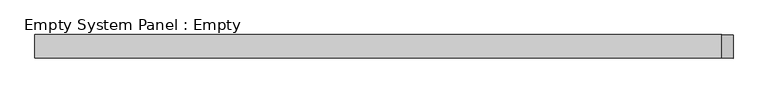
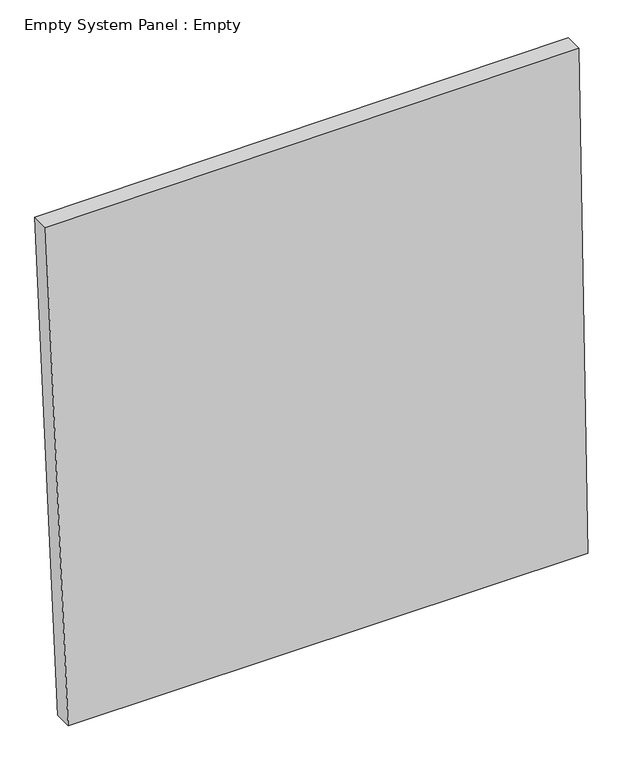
"""IFC4 building model written with IfcOpenShell, lengths in millimetres: plate geometry, Empty System Panel : Empty."""

import ifcopenshell
import ifcopenshell.guid

model = None  # the IFC model being written
_history = None  # IfcOwnerHistory: only IFC2X3 demands one
_inside = {}  # id of a spatial element -> (the spatial element, [elements in it])
_under = {}  # id of a project, library or spatial element -> (it, [spatial elements below it])
_declared = {}  # id of a project -> (the project, [libraries it declares])
_typed = {}  # id of a type object -> (the type object, [elements of that type])
_made_of = {}  # id of a material, layer set ... -> (it, [elements and type objects made of it])


def new_model(schema):
    """Start an empty IFC model of exactly this schema.

    Asked for "IFC4X3", IfcOpenShell would pick the latest addendum, in which some entities
    have other attributes; the version numbers below select the first issue.
    IFC2X3 requires an IfcOwnerHistory on every rooted entity: one is made here for all.
    """
    global model, _history
    if schema == "IFC4X3":
        model = ifcopenshell.file(schema_version=(4, 3, 0, 0))
    else:
        model = ifcopenshell.file(schema=schema)
    _inside.clear()
    _under.clear()
    _declared.clear()
    _typed.clear()
    _made_of.clear()
    _history = None
    if model.schema == "IFC2X3":
        org = make("IfcOrganization", Name="unknown")
        user = make(
            "IfcPersonAndOrganization",
            ThePerson=make("IfcPerson", FamilyName="unknown"),
            TheOrganization=org,
        )
        app = make(
            "IfcApplication",
            ApplicationDeveloper=org,
            Version="unknown",
            ApplicationFullName="unknown",
            ApplicationIdentifier="unknown",
        )
        _history = make(
            "IfcOwnerHistory",
            OwningUser=user,
            OwningApplication=app,
            ChangeAction="ADDED",
            CreationDate=0,
        )
    return model


def make(cls, **values):
    """One entity of the class cls with the attributes given. An attribute that is None is left unset."""
    return model.create_entity(
        cls, **{name: value for name, value in values.items() if value is not None}
    )


def rooted(cls, **values):
    """An entity with a GlobalId (a new one), such as an element, a storey or a relation."""
    return make(cls, GlobalId=ifcopenshell.guid.new(), OwnerHistory=_history, **values)


def si_unit(unit_type, name, prefix=None):
    """IfcSIUnit, for example si_unit("LENGTHUNIT", "METRE", prefix="MILLI")."""
    return make("IfcSIUnit", UnitType=unit_type, Prefix=prefix, Name=name)


def assignment(units):
    """IfcUnitAssignment: the units of a project."""
    return None if units is None else make("IfcUnitAssignment", Units=units)


def point(xyz):
    """IfcCartesianPoint."""
    return None if xyz is None else make("IfcCartesianPoint", Coordinates=xyz)


def direction(xyz):
    """IfcDirection."""
    return None if xyz is None else make("IfcDirection", DirectionRatios=xyz)


def frame(location, z_axis=None, x_axis=None):
    """IfcAxis2Placement3D, a coordinate frame: its origin and axes. An axis left out is left unset."""
    return make(
        "IfcAxis2Placement3D",
        Location=point(location),
        Axis=direction(z_axis),
        RefDirection=direction(x_axis),
    )


def origin():
    """The frame at (0, 0, 0) with its axes left unset."""
    return frame((0.0, 0.0, 0.0))


def place(relative_to, where):
    """IfcLocalPlacement: puts the frame where relative to a parent placement (None: the world)."""
    return make(
        "IfcLocalPlacement", PlacementRelTo=relative_to, RelativePlacement=where
    )


def context(
    kind, dimensions, precision=None, world=None, true_north=None, identifier=None
):
    """IfcGeometricRepresentationContext, for example the 3D "Model" context."""
    return make(
        "IfcGeometricRepresentationContext",
        ContextIdentifier=identifier,
        ContextType=kind,
        CoordinateSpaceDimension=dimensions,
        Precision=precision,
        WorldCoordinateSystem=world,
        TrueNorth=true_north,
    )


def project(units=None, contexts=None):
    """IfcProject with its units and contexts."""
    return rooted(
        "IfcProject",
        Name="project",
        RepresentationContexts=contexts,
        UnitsInContext=assignment(units),
    )


def spatial(cls, under=None, at=None, **own):
    """A site, building, storey or space (cls), placed at a placement, below another one or the project."""
    s = rooted(cls, ObjectPlacement=at, **own)
    if under is not None:
        _under.setdefault(under.id(), (under, []))[1].append(s)
    return s


def polyline(points):
    """IfcPolyline through the points."""
    return make("IfcPolyline", Points=[point(p) for p in points])


def outline(outer, holes=None, kind="AREA"):
    """IfcArbitraryClosedProfileDef: a profile drawn as a closed curve; with holes, ...WithVoids."""
    if holes is None:
        return make("IfcArbitraryClosedProfileDef", ProfileType=kind, OuterCurve=outer)
    return make(
        "IfcArbitraryProfileDefWithVoids",
        ProfileType=kind,
        OuterCurve=outer,
        InnerCurves=holes,
    )


def extrude(swept, where, along, depth):
    """IfcExtrudedAreaSolid: the profile swept, set in the frame where, extruded along a direction by depth."""
    return make(
        "IfcExtrudedAreaSolid",
        SweptArea=swept,
        Position=where,
        ExtrudedDirection=direction(along),
        Depth=depth,
    )


def shape(context_of_items, identifier, shape_type, items):
    """IfcShapeRepresentation: the items that make up one representation, for example the "Body"."""
    return make(
        "IfcShapeRepresentation",
        ContextOfItems=context_of_items,
        RepresentationIdentifier=identifier,
        RepresentationType=shape_type,
        Items=items,
    )


def source(mapping_origin, context_of_items, identifier, shape_type, items):
    """IfcRepresentationMap: a shape defined once, which mapped items show again and again."""
    return make(
        "IfcRepresentationMap",
        MappingOrigin=mapping_origin,
        MappedRepresentation=shape(context_of_items, identifier, shape_type, items),
    )


def transform(
    local_origin,
    x_axis=None,
    y_axis=None,
    z_axis=None,
    scale=None,
    scale2=None,
    scale3=None,
    uniform=True,
):
    """IfcCartesianTransformationOperator3D, or its non-uniform kind. x_axis, y_axis, z_axis: its Axis1, 2, 3."""
    if uniform:
        return make(
            "IfcCartesianTransformationOperator3D",
            Axis1=direction(x_axis),
            Axis2=direction(y_axis),
            LocalOrigin=point(local_origin),
            Scale=scale,
            Axis3=direction(z_axis),
        )
    return make(
        "IfcCartesianTransformationOperator3DnonUniform",
        Axis1=direction(x_axis),
        Axis2=direction(y_axis),
        LocalOrigin=point(local_origin),
        Scale=scale,
        Axis3=direction(z_axis),
        Scale2=scale2,
        Scale3=scale3,
    )


def mapped(mapping_source, mapping_target):
    """IfcMappedItem: shows the shape of a source again, moved by a transform."""
    return make(
        "IfcMappedItem", MappingSource=mapping_source, MappingTarget=mapping_target
    )


def made_of(thing, what):
    """Note that an element or type object is made of a material, layer set ...; save() writes the relation."""
    if what is not None:
        _made_of.setdefault(what.id(), (what, []))[1].append(thing)
    return thing


def element(
    cls,
    number,
    at=None,
    inside=None,
    cuts=None,
    type_object=None,
    material=None,
    context=None,
    identifier="Body",
    shape_type=None,
    held_by="IfcProductDefinitionShape",
    body=None,
    shapes=None,
    **own,
):
    """One element of the class cls, such as IfcWall. Its Tag is "e" and its number.

    at: its placement. inside: the storey or other place that contains it. cuts: it is an
    opening in that element (IfcRelVoidsElement). A single representation is given by context,
    identifier, shape_type and body (its items); several are given by shapes. held_by: the class
    of the entity that holds the representations. save() writes the other relations.
    """
    e = rooted(cls, Tag="e%d" % number, ObjectPlacement=at, **own)
    if body is not None:
        shapes = [shape(context, identifier, shape_type, body)]
    if shapes is not None:
        e.Representation = make(held_by, Representations=shapes)
    if inside is not None:
        _inside.setdefault(inside.id(), (inside, []))[1].append(e)
    if cuts is not None:
        rooted(
            "IfcRelVoidsElement", RelatingBuildingElement=cuts, RelatedOpeningElement=e
        )
    if type_object is not None:
        _typed.setdefault(type_object.id(), (type_object, []))[1].append(e)
    return made_of(e, material)


def aggregate(whole, parts):
    """IfcRelAggregates: a whole, such as a stair, and the parts it consists of."""
    return rooted("IfcRelAggregates", RelatingObject=whole, RelatedObjects=parts)


def save(model, path):
    """Write the relations noted so far, then the file.

    IfcRelAggregates (storeys below a building ...), IfcRelContainedInSpatialStructure (elements
    in a storey), IfcRelDefinesByType, IfcRelAssociatesMaterial and IfcRelDeclares: one each for
    every whole, place, type object, material and project.
    """
    for whole, parts in _under.values():
        aggregate(whole, parts)
    for where, things in _inside.values():
        rooted(
            "IfcRelContainedInSpatialStructure",
            RelatedElements=things,
            RelatingStructure=where,
        )
    for kind, things in _typed.values():
        rooted("IfcRelDefinesByType", RelatedObjects=things, RelatingType=kind)
    for what, things in _made_of.values():
        rooted("IfcRelAssociatesMaterial", RelatedObjects=things, RelatingMaterial=what)
    for by, libraries in _declared.values():
        rooted("IfcRelDeclares", RelatingContext=by, RelatedDefinitions=libraries)
    model.write(path)


def empty_system_panel_empty_fe6205c0(model_context):
    return source(origin(), model_context, "Body", "SweptSolid", [
        extrude(outline(polyline([(0.0, -1380.8651285), (0.0, 1506.3158243), (2980.8781721, 1457.3793999), (2965.2218272, -1506.3158243), (0.0, -1380.8651285)])), frame((0.0, -50.8, 0.0), z_axis=(0.0, 1.0, 0.0), x_axis=(0.0, 0.0, 1.0)), (0.0, 0.0, 1.0), 101.6),
    ])


if __name__ == "__main__":
    model = new_model("IFC4")
    model_context = context("Model", 3, world=origin())
    ifc_project = project(units=[si_unit("LENGTHUNIT", "METRE", prefix="MILLI")], contexts=[model_context])
    site = spatial("IfcSite", under=ifc_project)
    building = spatial("IfcBuilding", under=site)
    placement = place(None, origin())
    empty_system_panel_empty_shape = empty_system_panel_empty_fe6205c0(model_context)
    element("IfcPlate", 1, ObjectType="Empty System Panel : Empty", at=placement, inside=building, context=model_context, shape_type="MappedRepresentation", body=[
        mapped(empty_system_panel_empty_shape, transform((0.0, 0.0, 0.0), x_axis=(1.0, 0.0, 0.0), y_axis=(0.0, 1.0, 0.0), z_axis=(0.0, 0.0, 1.0))),
    ])
    save(model, "model.ifc")
